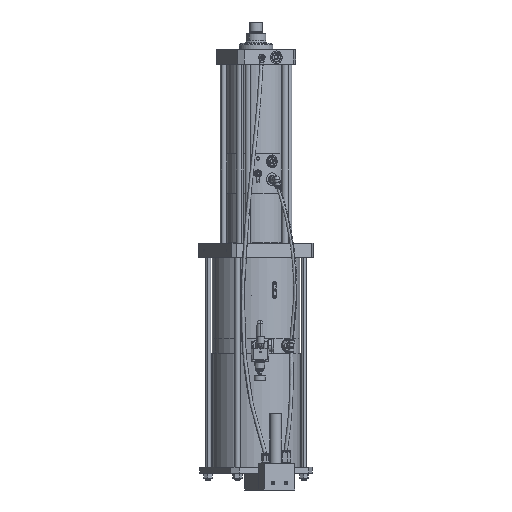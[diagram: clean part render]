
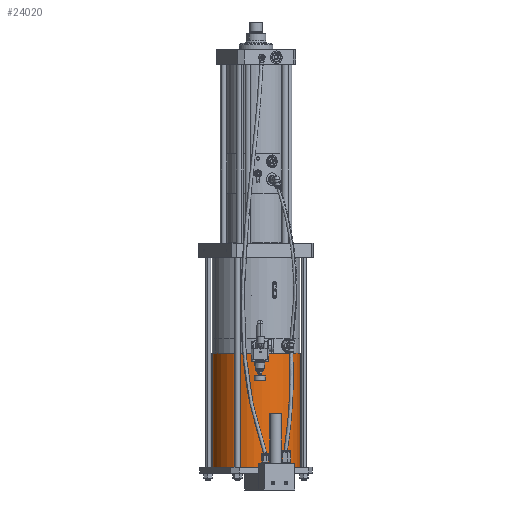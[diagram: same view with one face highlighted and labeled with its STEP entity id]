
A CAD part, front view. The second image highlights one B-rep face of the part: STEP entity #24020.
In plain terms, the highlighted cylindrical face has radius 132.5 mm (diameter 265 mm), a partial arc.
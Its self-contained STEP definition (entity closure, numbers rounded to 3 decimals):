
#1566 = EDGE_CURVE ( 'NONE', #20575, #7664, #3632, .T. ) ;
#1915 = EDGE_CURVE ( 'NONE', #20575, #15816, #9708, .T. ) ;
#2046 = AXIS2_PLACEMENT_3D ( 'NONE', #4776, #12861, #23325 ) ;
#3352 = EDGE_CURVE ( 'NONE', #15816, #4265, #4561, .T. ) ;
#3632 = CIRCLE ( 'NONE', #12957, 132.5 ) ;
#3649 = CARTESIAN_POINT ( 'NONE',  ( 264.238, 32.564, -741.56 ) ) ;
#3927 = CARTESIAN_POINT ( 'NONE',  ( 133.011, 14.242, -741.56 ) ) ;
#4265 = VERTEX_POINT ( 'NONE', #8450 ) ;
#4358 = CARTESIAN_POINT ( 'NONE',  ( 133.011, 14.242, -1085.56 ) ) ;
#4561 = CIRCLE ( 'NONE', #2046, 132.5 ) ;
#4776 = CARTESIAN_POINT ( 'NONE',  ( 264.238, 32.564, -1085.56 ) ) ;
#5517 = CARTESIAN_POINT ( 'NONE',  ( 264.238, 32.564, -741.56 ) ) ;
#7664 = VERTEX_POINT ( 'NONE', #15020 ) ;
#8450 = CARTESIAN_POINT ( 'NONE',  ( 395.465, 50.886, -1085.56 ) ) ;
#9500 = ORIENTED_EDGE ( 'NONE', *, *, #20205, .F. ) ;
#9708 = LINE ( 'NONE', #15410, #10845 ) ;
#9767 = ORIENTED_EDGE ( 'NONE', *, *, #1566, .F. ) ;
#10845 = VECTOR ( 'NONE', #19639, 1000. ) ;
#11416 = EDGE_LOOP ( 'NONE', ( #9500, #9767, #19970, #20351 ) ) ;
#11492 = DIRECTION ( 'NONE',  ( 0., 0., -1. ) ) ;
#11722 = DIRECTION ( 'NONE',  ( 0., 0., 1. ) ) ;
#12861 = DIRECTION ( 'NONE',  ( 0., 0., 1. ) ) ;
#12957 = AXIS2_PLACEMENT_3D ( 'NONE', #3649, #11722, #15443 ) ;
#14146 = DIRECTION ( 'NONE',  ( 0., 0., -1. ) ) ;
#14483 = CYLINDRICAL_SURFACE ( 'NONE', #22433, 132.5 ) ;
#15020 = CARTESIAN_POINT ( 'NONE',  ( 395.465, 50.886, -741.56 ) ) ;
#15410 = CARTESIAN_POINT ( 'NONE',  ( 133.011, 14.242, -741.56 ) ) ;
#15443 = DIRECTION ( 'NONE',  ( 0.99, 0.138, 0. ) ) ;
#15758 = CARTESIAN_POINT ( 'NONE',  ( 395.465, 50.886, -741.56 ) ) ;
#15816 = VERTEX_POINT ( 'NONE', #4358 ) ;
#16268 = LINE ( 'NONE', #15758, #19803 ) ;
#16470 = FACE_OUTER_BOUND ( 'NONE', #11416, .T. ) ;
#17577 = DIRECTION ( 'NONE',  ( -0.99, -0.138, 0. ) ) ;
#19639 = DIRECTION ( 'NONE',  ( 0., 0., -1. ) ) ;
#19803 = VECTOR ( 'NONE', #14146, 1000. ) ;
#19970 = ORIENTED_EDGE ( 'NONE', *, *, #1915, .T. ) ;
#20205 = EDGE_CURVE ( 'NONE', #7664, #4265, #16268, .T. ) ;
#20351 = ORIENTED_EDGE ( 'NONE', *, *, #3352, .T. ) ;
#20575 = VERTEX_POINT ( 'NONE', #3927 ) ;
#22433 = AXIS2_PLACEMENT_3D ( 'NONE', #5517, #11492, #17577 ) ;
#23325 = DIRECTION ( 'NONE',  ( 0.99, 0.138, 0. ) ) ;
#24020 = ADVANCED_FACE ( 'NONE', ( #16470 ), #14483, .T. ) ;
